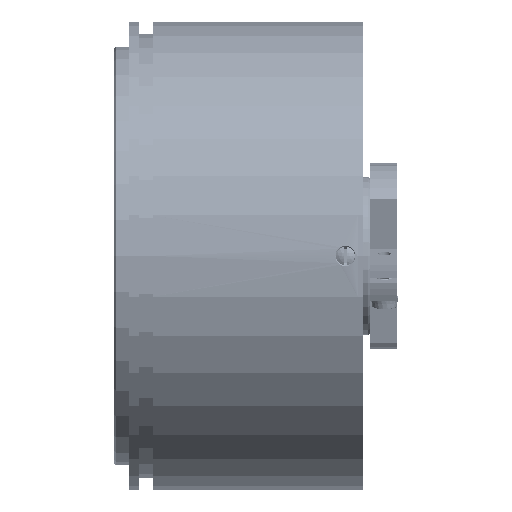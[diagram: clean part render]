
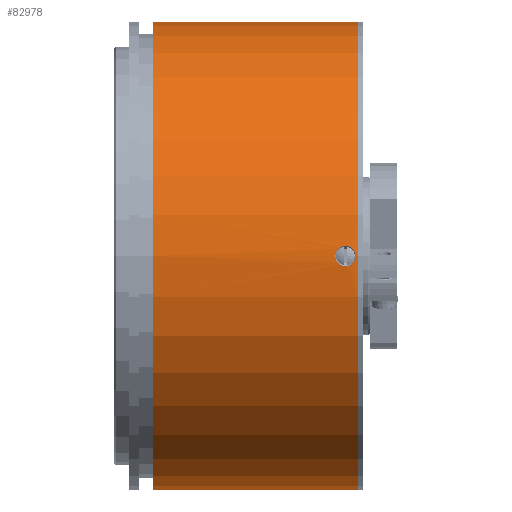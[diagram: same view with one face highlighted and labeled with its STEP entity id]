
A CAD part, front view. The second image highlights one B-rep face of the part: STEP entity #82978.
In plain terms, the highlighted cylindrical face has radius 47.5 mm (diameter 95 mm), a partial arc.
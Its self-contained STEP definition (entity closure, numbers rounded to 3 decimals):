
#4454 = CARTESIAN_POINT ( 'NONE',  ( 6.571, 32.247, 78.459 ) ) ;
#4651 = CIRCLE ( 'NONE', #31093, 47.5 ) ;
#5904 = CARTESIAN_POINT ( 'NONE',  ( 51.744, -15.244, 30.042 ) ) ;
#6639 = CARTESIAN_POINT ( 'NONE',  ( 53.571, -15.208, 33.029 ) ) ;
#9537 = CARTESIAN_POINT ( 'NONE',  ( 53.839, -15.208, 33.029 ) ) ;
#10284 = CARTESIAN_POINT ( 'NONE',  ( 55.196, -15.236, 29.688 ) ) ;
#13960 = DIRECTION ( 'NONE',  ( -1., 0., 0. ) ) ;
#17065 = EDGE_CURVE ( 'NONE', #83107, #148285, #4651, .T. ) ;
#23050 = CARTESIAN_POINT ( 'NONE',  ( 51.539, -15.253, 30.688 ) ) ;
#25646 = EDGE_CURVE ( 'NONE', #219819, #62821, #205166, .T. ) ;
#26697 = CARTESIAN_POINT ( 'NONE',  ( 54.595, -15.219, 32.768 ) ) ;
#27417 = CARTESIAN_POINT ( 'NONE',  ( 54.81, -15.225, 29.313 ) ) ;
#31093 = AXIS2_PLACEMENT_3D ( 'NONE', #115590, #13960, #132639 ) ;
#33204 = AXIS2_PLACEMENT_3D ( 'NONE', #79677, #198228, #96655 ) ;
#34127 = FACE_OUTER_BOUND ( 'NONE', #198687, .T. ) ;
#39485 = CARTESIAN_POINT ( 'NONE',  ( 53.303, -15.208, 28.889 ) ) ;
#40217 = CARTESIAN_POINT ( 'NONE',  ( 51.592, -15.251, 31.502 ) ) ;
#43765 = CARTESIAN_POINT ( 'NONE',  ( 55.196, -15.236, 32.231 ) ) ;
#44098 = CARTESIAN_POINT ( 'NONE',  ( 6.571, 32.247, 30.959 ) ) ;
#44482 = CARTESIAN_POINT ( 'NONE',  ( 54.473, -15.217, 29.1 ) ) ;
#50395 = VERTEX_POINT ( 'NONE', #84036 ) ;
#51814 = EDGE_CURVE ( 'NONE', #151662, #50395, #89335, .T. ) ;
#57286 = CARTESIAN_POINT ( 'NONE',  ( 51.807, -15.242, 31.996 ) ) ;
#59961 = LINE ( 'NONE', #4454, #104964 ) ;
#60815 = CARTESIAN_POINT ( 'NONE',  ( 55.499, -15.249, 31.626 ) ) ;
#61546 = CARTESIAN_POINT ( 'NONE',  ( 53.834, -15.208, 28.889 ) ) ;
#62821 = VERTEX_POINT ( 'NONE', #150393 ) ;
#73552 = CARTESIAN_POINT ( 'NONE',  ( 52.545, -15.219, 29.152 ) ) ;
#74279 = CARTESIAN_POINT ( 'NONE',  ( 52.041, -15.233, 32.328 ) ) ;
#77890 = CARTESIAN_POINT ( 'NONE',  ( 55.59, -15.252, 31.23 ) ) ;
#79677 = CARTESIAN_POINT ( 'NONE',  ( 56.071, 32.247, 30.959 ) ) ;
#82978 = ADVANCED_FACE ( 'NONE', ( #34127, #214509 ), #102940, .T. ) ;
#83107 = VERTEX_POINT ( 'NONE', #135834 ) ;
#84036 = CARTESIAN_POINT ( 'NONE',  ( 53.569, -15.208, 28.889 ) ) ;
#84593 = CARTESIAN_POINT ( 'NONE',  ( 56.071, 32.247, -16.541 ) ) ;
#85046 = ORIENTED_EDGE ( 'NONE', *, *, #51814, .T. ) ;
#89335 = B_SPLINE_CURVE_WITH_KNOTS ( 'NONE', 3,
 ( #111154, #9537, #128227, #26697, #145300, #43765, #162462, #60815, #179362, #77890, #196436, #94836, #213553, #111860, #10284, #128960, #27417, #146043, #44482, #163214, #61546, #180115 ),
 .UNSPECIFIED., .F., .F.,
 ( 4, 2, 2, 2, 2, 2, 2, 2, 2, 2, 4 ),
 ( 0., 0.062, 0.125, 0.187, 0.219, 0.25, 0.312, 0.375, 0.406, 0.437, 0.5 ),
 .UNSPECIFIED. ) ;
#89753 = DIRECTION ( 'NONE',  ( -1., 0., 0. ) ) ;
#90494 = CARTESIAN_POINT ( 'NONE',  ( 52.039, -15.233, 29.592 ) ) ;
#91209 = CARTESIAN_POINT ( 'NONE',  ( 52.547, -15.219, 32.768 ) ) ;
#92058 = EDGE_CURVE ( 'NONE', #50395, #151662, #96703, .T. ) ;
#92452 = AXIS2_PLACEMENT_3D ( 'NONE', #44098, #162800, #163527 ) ;
#94836 = CARTESIAN_POINT ( 'NONE',  ( 55.603, -15.253, 30.688 ) ) ;
#96655 = DIRECTION ( 'NONE',  ( 0., 0., 1. ) ) ;
#96703 = B_SPLINE_CURVE_WITH_KNOTS ( 'NONE', 3,
 ( #106806, #39485, #175064, #73552, #192144, #90494, #209211, #107534, #5904, #124657, #23050, #141732, #40217, #158814, #57286, #175780, #74279, #192880, #91209, #209952, #108259, #6639 ),
 .UNSPECIFIED., .F., .F.,
 ( 4, 2, 2, 2, 2, 2, 2, 2, 2, 2, 4 ),
 ( 0.5, 0.563, 0.625, 0.656, 0.688, 0.75, 0.813, 0.844, 0.875, 0.938, 1. ),
 .UNSPECIFIED. ) ;
#100147 = EDGE_CURVE ( 'NONE', #62821, #148285, #59961, .T. ) ;
#101808 = ORIENTED_EDGE ( 'NONE', *, *, #120382, .F. ) ;
#102940 = CYLINDRICAL_SURFACE ( 'NONE', #92452, 47.5 ) ;
#104964 = VECTOR ( 'NONE', #89753, 1000. ) ;
#106806 = CARTESIAN_POINT ( 'NONE',  ( 53.569, -15.208, 28.889 ) ) ;
#107534 = CARTESIAN_POINT ( 'NONE',  ( 51.806, -15.242, 29.923 ) ) ;
#108259 = CARTESIAN_POINT ( 'NONE',  ( 53.307, -15.208, 33.029 ) ) ;
#111154 = CARTESIAN_POINT ( 'NONE',  ( 53.571, -15.208, 33.029 ) ) ;
#111860 = CARTESIAN_POINT ( 'NONE',  ( 55.346, -15.242, 29.916 ) ) ;
#115590 = CARTESIAN_POINT ( 'NONE',  ( 14.571, 32.247, 30.959 ) ) ;
#120382 = EDGE_CURVE ( 'NONE', #219819, #83107, #217199, .T. ) ;
#124657 = CARTESIAN_POINT ( 'NONE',  ( 51.591, -15.251, 30.419 ) ) ;
#126974 = VECTOR ( 'NONE', #162596, 1000. ) ;
#127797 = CARTESIAN_POINT ( 'NONE',  ( 14.571, 32.247, 78.459 ) ) ;
#128227 = CARTESIAN_POINT ( 'NONE',  ( 54.101, -15.21, 32.976 ) ) ;
#128500 = ORIENTED_EDGE ( 'NONE', *, *, #25646, .T. ) ;
#128960 = CARTESIAN_POINT ( 'NONE',  ( 54.914, -15.228, 29.4 ) ) ;
#132639 = DIRECTION ( 'NONE',  ( 0., 0., 1. ) ) ;
#135834 = CARTESIAN_POINT ( 'NONE',  ( 14.571, 32.247, -16.541 ) ) ;
#141732 = CARTESIAN_POINT ( 'NONE',  ( 51.539, -15.253, 31.232 ) ) ;
#145300 = CARTESIAN_POINT ( 'NONE',  ( 54.819, -15.225, 32.615 ) ) ;
#145434 = CARTESIAN_POINT ( 'NONE',  ( 6.571, 32.247, -16.541 ) ) ;
#146043 = CARTESIAN_POINT ( 'NONE',  ( 54.589, -15.219, 29.163 ) ) ;
#148285 = VERTEX_POINT ( 'NONE', #127797 ) ;
#150393 = CARTESIAN_POINT ( 'NONE',  ( 56.071, 32.247, 78.459 ) ) ;
#151662 = VERTEX_POINT ( 'NONE', #165911 ) ;
#158814 = CARTESIAN_POINT ( 'NONE',  ( 51.745, -15.244, 31.878 ) ) ;
#162462 = CARTESIAN_POINT ( 'NONE',  ( 55.346, -15.242, 32.001 ) ) ;
#162596 = DIRECTION ( 'NONE',  ( -1., 0., 0. ) ) ;
#162800 = DIRECTION ( 'NONE',  ( -1., 0., 0. ) ) ;
#163214 = CARTESIAN_POINT ( 'NONE',  ( 54.102, -15.21, 28.943 ) ) ;
#163527 = DIRECTION ( 'NONE',  ( 0., 0., 1. ) ) ;
#165911 = CARTESIAN_POINT ( 'NONE',  ( 53.571, -15.208, 33.029 ) ) ;
#175064 = CARTESIAN_POINT ( 'NONE',  ( 53.038, -15.21, 28.943 ) ) ;
#175780 = CARTESIAN_POINT ( 'NONE',  ( 51.956, -15.236, 32.223 ) ) ;
#179362 = CARTESIAN_POINT ( 'NONE',  ( 55.537, -15.25, 31.497 ) ) ;
#180115 = CARTESIAN_POINT ( 'NONE',  ( 53.569, -15.208, 28.889 ) ) ;
#182890 = ORIENTED_EDGE ( 'NONE', *, *, #92058, .T. ) ;
#184432 = ORIENTED_EDGE ( 'NONE', *, *, #17065, .F. ) ;
#190547 = EDGE_LOOP ( 'NONE', ( #85046, #182890 ) ) ;
#192144 = CARTESIAN_POINT ( 'NONE',  ( 52.322, -15.225, 29.303 ) ) ;
#192880 = CARTESIAN_POINT ( 'NONE',  ( 52.323, -15.225, 32.615 ) ) ;
#193104 = ORIENTED_EDGE ( 'NONE', *, *, #100147, .T. ) ;
#196436 = CARTESIAN_POINT ( 'NONE',  ( 55.603, -15.253, 31.094 ) ) ;
#198228 = DIRECTION ( 'NONE',  ( -1., 0., 0. ) ) ;
#198687 = EDGE_LOOP ( 'NONE', ( #101808, #128500, #193104, #184432 ) ) ;
#205166 = CIRCLE ( 'NONE', #33204, 47.5 ) ;
#209211 = CARTESIAN_POINT ( 'NONE',  ( 51.954, -15.236, 29.698 ) ) ;
#209952 = CARTESIAN_POINT ( 'NONE',  ( 53.04, -15.21, 32.976 ) ) ;
#213553 = CARTESIAN_POINT ( 'NONE',  ( 55.55, -15.251, 30.418 ) ) ;
#214509 = FACE_BOUND ( 'NONE', #190547, .T. ) ;
#217199 = LINE ( 'NONE', #145434, #126974 ) ;
#219819 = VERTEX_POINT ( 'NONE', #84593 ) ;
